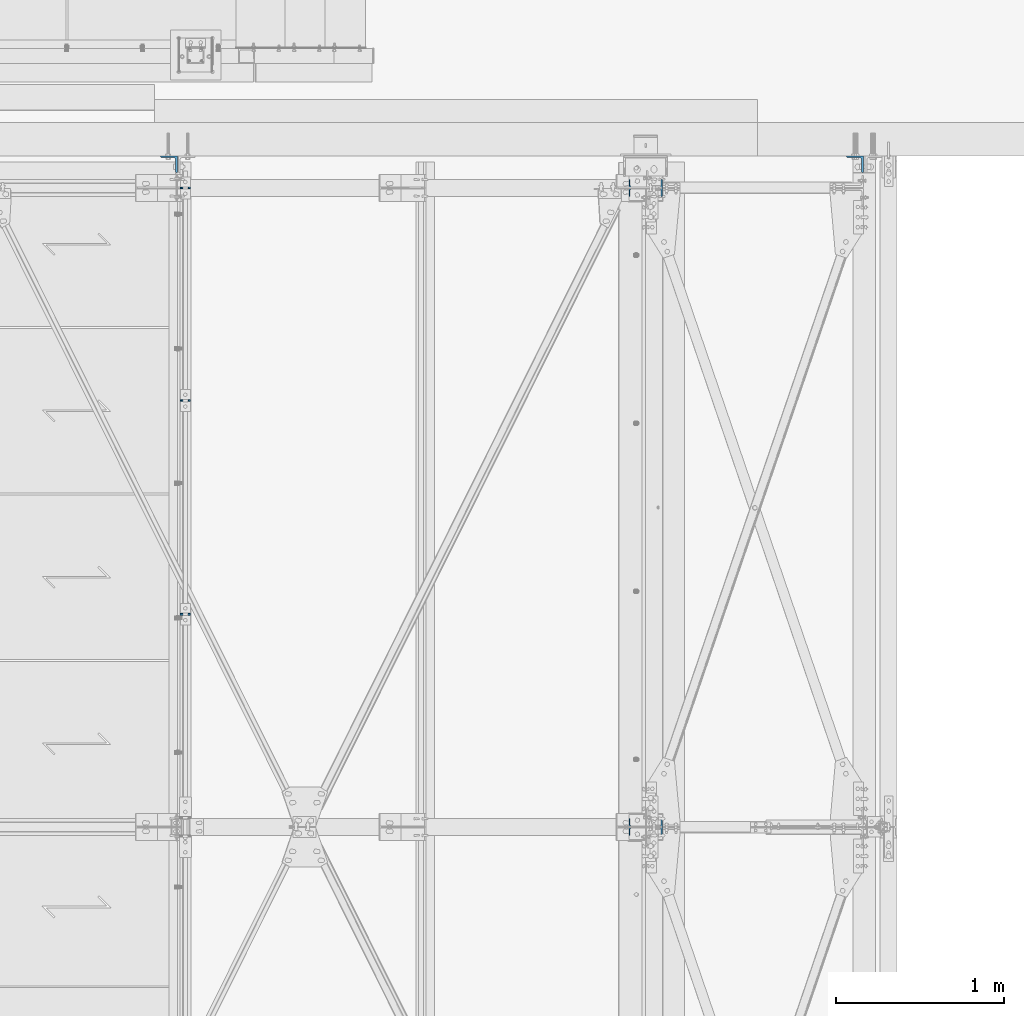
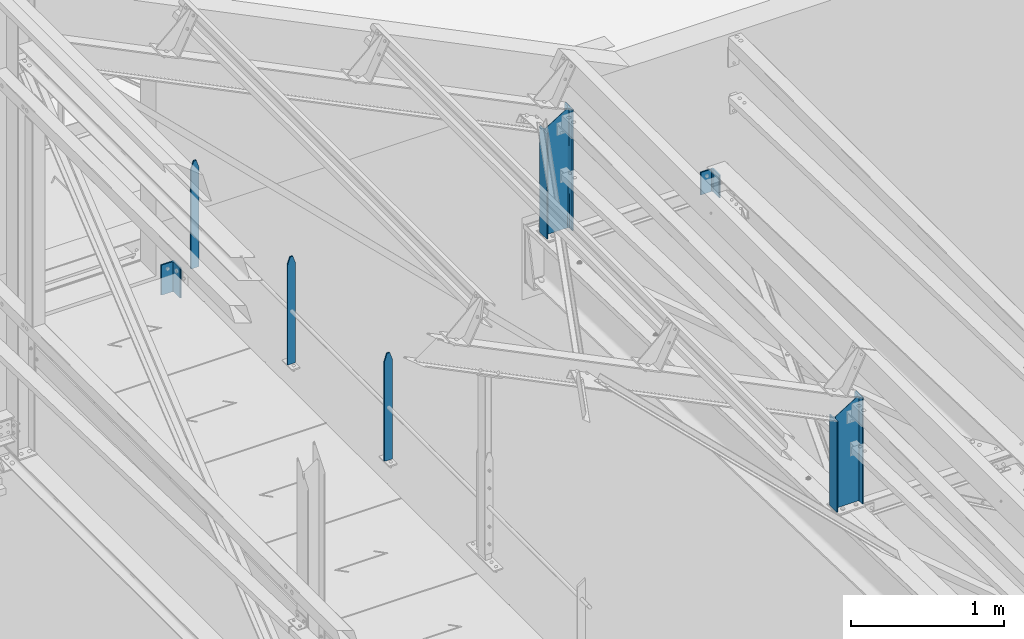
# One storey, part 39 of 362: 7 columns, 5 elements without a shape of their own.
"""IFC2X3 building model written with IfcOpenShell, lengths in millimetres."""

from ifc_helpers import new_model, si_unit, frame, origin_with_axes, origin_2d_with_axis, place, context, subcontext, project, spatial, rectangle, i_section, l_section, extrude, clip, halfspace, material, type_object, element, aggregate, save


model = new_model("IFC2X3")

# Units and contexts
model_context = context("Model", 3, precision=1e-05, world=origin_with_axes())
body_context = subcontext(model_context, "Body", "Model", "MODEL_VIEW")
ifc_project = project(units=[si_unit("LENGTHUNIT", "METRE", prefix="MILLI"), si_unit("AREAUNIT", "SQUARE_METRE"), si_unit("VOLUMEUNIT", "CUBIC_METRE"), si_unit("MASSUNIT", "GRAM", prefix="KILO"), si_unit("TIMEUNIT", "SECOND"), si_unit("PLANEANGLEUNIT", "RADIAN"), si_unit("SOLIDANGLEUNIT", "STERADIAN"), si_unit("THERMODYNAMICTEMPERATUREUNIT", "DEGREE_CELSIUS"), si_unit("LUMINOUSINTENSITYUNIT", "LUMEN")], contexts=[model_context])

# Site, building, storey
site_placement = place(None, origin_with_axes())
site = spatial("IfcSite", under=ifc_project, at=site_placement, Name="Undefined", CompositionType="ELEMENT")
building_placement = place(site_placement, origin_with_axes())
building = spatial("IfcBuilding", under=site, at=building_placement, Name="Undefined", CompositionType="ELEMENT")
storey_placement = place(building_placement, origin_with_axes())
storey = spatial("IfcBuildingStorey", under=building, at=storey_placement, Name="Undefined", CompositionType="ELEMENT", Elevation=0.0)

# Assembly, columns
assembly_1_placement = place(storey_placement, origin_with_axes())
assembly_1 = element("IfcElementAssembly", 1, at=assembly_1_placement, inside=storey, Name="MAIN COURANTE", AssemblyPlace="NOTDEFINED", PredefinedType="NOTDEFINED")
ifc_material_1 = material(Name="Undefined/S235-E24")
column_type_1 = type_object("IfcColumnType", Name="PL10*60", PredefinedType="NOTDEFINED")
column_1_placement = place(assembly_1_placement, frame((35593.9917224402, 15200.0000000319, 8249.99999828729), z_axis=(0.0, 0.0, 1.0), x_axis=(1.0, 0.0, 0.0)))
column_1 = element("IfcColumn", 2, at=column_1_placement, type_object=column_type_1, material=ifc_material_1, Name="MONTANT", ObjectType="PL10*60", context=body_context, shape_type="Clipping", body=[
    clip(clip(extrude(rectangle(XDim=10.0, YDim=60.0, at=origin_2d_with_axis()), frame((0.0, 0.0, 857.599997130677), z_axis=(0.0, 0.0, -1.0), x_axis=(0.0, 1.0, 0.0)), (0.0, 0.0, 1.0), 857.6), halfspace(frame((30.0000001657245, -5.000000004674, 797.599997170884), z_axis=(0.948683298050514, 0.0, 0.316227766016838), x_axis=(-0.316227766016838, 0.0, 0.948683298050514)), False)), halfspace(frame((-29.9999998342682, 4.99999999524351, 797.599997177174), z_axis=(-0.948683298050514, 0.0, 0.316227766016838), x_axis=(0.316227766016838, 0.0, 0.948683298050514)), False)),
])
column_2_placement = place(assembly_1_placement, frame((35593.9917204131, 12665.0034319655, 8250.00000011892), z_axis=(0.0, 0.0, 1.0), x_axis=(1.0, 0.0, 0.0)))
column_2 = element("IfcColumn", 3, at=column_2_placement, type_object=column_type_1, material=ifc_material_1, Name="MONTANT", ObjectType="PL10*60", context=body_context, shape_type="Clipping", body=[
    clip(clip(extrude(rectangle(XDim=10.0, YDim=60.0, at=origin_2d_with_axis()), frame((0.0, 0.0, 857.599997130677), z_axis=(0.0, 0.0, -1.0), x_axis=(0.0, 1.0, 0.0)), (0.0, 0.0, 1.0), 857.6), halfspace(frame((30.0000001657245, -5.000000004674, 797.599997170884), z_axis=(0.948683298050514, 0.0, 0.316227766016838), x_axis=(-0.316227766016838, 0.0, 0.948683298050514)), False)), halfspace(frame((-29.9999998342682, 4.99999999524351, 797.599997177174), z_axis=(-0.948683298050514, 0.0, 0.316227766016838), x_axis=(0.316227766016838, 0.0, 0.948683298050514)), False)),
])
column_3_placement = place(assembly_1_placement, frame((35593.9917214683, 13935.0034319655, 8249.99999924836), z_axis=(0.0, 0.0, 1.0), x_axis=(1.0, 0.0, 0.0)))
column_3 = element("IfcColumn", 4, at=column_3_placement, type_object=column_type_1, material=ifc_material_1, Name="MONTANT", ObjectType="PL10*60", context=body_context, shape_type="Clipping", body=[
    clip(clip(extrude(rectangle(XDim=10.0, YDim=60.0, at=origin_2d_with_axis()), frame((0.0, 0.0, 857.599997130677), z_axis=(0.0, 0.0, -1.0), x_axis=(0.0, 1.0, 0.0)), (0.0, 0.0, 1.0), 857.6), halfspace(frame((30.0000001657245, -5.000000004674, 797.599997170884), z_axis=(0.948683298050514, 0.0, 0.316227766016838), x_axis=(-0.316227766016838, 0.0, 0.948683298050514)), False)), halfspace(frame((-29.9999998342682, 4.99999999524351, 797.599997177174), z_axis=(-0.948683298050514, 0.0, 0.316227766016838), x_axis=(0.316227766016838, 0.0, 0.948683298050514)), False)),
])
aggregate(assembly_1, [column_1, column_2, column_3])

# Assembly, column
assembly_2_placement = place(storey_placement, origin_with_axes())
assembly_2 = element("IfcElementAssembly", 5, at=assembly_2_placement, inside=storey, AssemblyPlace="NOTDEFINED", PredefinedType="NOTDEFINED")
column_type_2 = type_object("IfcColumnType", Name="L100*10", PredefinedType="NOTDEFINED")
column_4_placement = place(assembly_2_placement, frame((35496.4917140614, 15339.9999999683, 7970.00437164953), z_axis=(0.0, 0.0, 1.0), x_axis=(-1.0, 0.0, 0.0)))
column_4 = element("IfcColumn", 6, at=column_4_placement, type_object=column_type_2, material=ifc_material_1, Name="ATTACHE", ObjectType="L100*10", context=body_context, shape_type="SweptSolid", body=[
    extrude(l_section(Depth=100.0, Width=100.0, Thickness=10.0, FilletRadius=12.0, EdgeRadius=6.0, at=origin_2d_with_axis()), frame((0.0, 0.0, 239.999999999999), z_axis=(0.0, 0.0, -1.0), x_axis=(0.0, 1.0, 0.0)), (0.0, 0.0, 1.0), 240.0),
])
aggregate(assembly_2, [column_4])

assembly_3_placement = place(storey_placement, origin_with_axes())
assembly_3 = element("IfcElementAssembly", 7, at=assembly_3_placement, inside=storey, AssemblyPlace="NOTDEFINED", PredefinedType="NOTDEFINED")
column_5_placement = place(assembly_3_placement, frame((39575.0000000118, 15339.999993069, 7343.32582688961), z_axis=(0.0, 0.0, 1.0), x_axis=(-1.0, 0.0, 0.0)))
column_5 = element("IfcColumn", 8, at=column_5_placement, type_object=column_type_2, material=ifc_material_1, Name="ATTACHE", ObjectType="L100*10", context=body_context, shape_type="SweptSolid", body=[
    extrude(l_section(Depth=100.0, Width=100.0, Thickness=10.0, FilletRadius=12.0, EdgeRadius=6.0, at=origin_2d_with_axis()), frame((0.0, 0.0, 180.0), z_axis=(0.0, 0.0, -1.0), x_axis=(0.0, 1.0, 0.0)), (0.0, 0.0, 1.0), 180.0),
])
aggregate(assembly_3, [column_5])

assembly_4_placement = place(storey_placement, origin_with_axes())
assembly_4 = element("IfcElementAssembly", 9, at=assembly_4_placement, inside=storey, Name="TRAVERSE SHED", AssemblyPlace="NOTDEFINED", PredefinedType="NOTDEFINED")
ifc_material_2 = material(Name="Undefined/S275-E28")
column_type_3 = type_object("IfcColumnType", Name="IPE200", PredefinedType="NOTDEFINED")
column_6_placement = place(assembly_4_placement, frame((38330.0, 15200.0, 7572.3207892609), z_axis=(0.0, 0.0, 1.0), x_axis=(-1.0, 0.0, 0.0)))
column_6 = element("IfcColumn", 10, at=column_6_placement, type_object=column_type_3, material=ifc_material_2, Name="TRAVERSE SHED", ObjectType="IPE200", context=body_context, shape_type="Clipping", body=[
    clip(clip(extrude(i_section(OverallWidth=100.0, OverallDepth=200.0, WebThickness=5.599999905, FlangeThickness=8.5, FilletRadius=12.0, at=origin_2d_with_axis()), frame((0.0, 0.0, 979.888907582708), z_axis=(0.0, 0.0, -1.0), x_axis=(0.0, 1.0, 0.0)), (0.0, 0.0, 1.0), 1034.36), halfspace(frame((100.0, 15200.0, 853.14611483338), z_axis=(-0.528573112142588, 0.0, -0.848887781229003), x_axis=(0.0, 1.0, 0.0)), True)), halfspace(frame((0.0, -43.0853770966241, 8.65091138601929), z_axis=(0.0, -0.0314108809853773, 0.999506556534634), x_axis=(-1.0, 0.0, 0.0)), True)),
])
aggregate(assembly_4, [column_6])

assembly_5_placement = place(storey_placement, origin_with_axes())
assembly_5 = element("IfcElementAssembly", 11, at=assembly_5_placement, inside=storey, Name="TRAVERSE SHED", AssemblyPlace="NOTDEFINED", PredefinedType="NOTDEFINED")
column_7_placement = place(assembly_5_placement, frame((38330.0, 11400.0, 7691.74106035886), z_axis=(0.0, 0.0, 1.0), x_axis=(-1.0, 0.0, 0.0)))
column_7 = element("IfcColumn", 12, at=column_7_placement, type_object=column_type_3, material=ifc_material_2, Name="TRAVERSE SHED", ObjectType="IPE200", context=body_context, shape_type="Clipping", body=[
    clip(clip(extrude(i_section(OverallWidth=100.0, OverallDepth=200.0, WebThickness=5.599999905, FlangeThickness=8.5, FilletRadius=12.0, at=origin_2d_with_axis()), frame((0.0, 0.0, 860.468636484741), z_axis=(0.0, 0.0, -1.0), x_axis=(0.0, 1.0, 0.0)), (0.0, 0.0, 1.0), 914.94), halfspace(frame((100.0, 11400.0, 733.725843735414), z_axis=(-0.528573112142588, 0.0, -0.848887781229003), x_axis=(0.0, 1.0, 0.0)), True)), halfspace(frame((0.0, -66.0396412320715, 7.92954558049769), z_axis=(0.0, 0.031410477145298, -0.999506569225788), x_axis=(1.0, 0.0, 0.0)), False)),
])
aggregate(assembly_5, [column_7])

save(model, "model.ifc")
